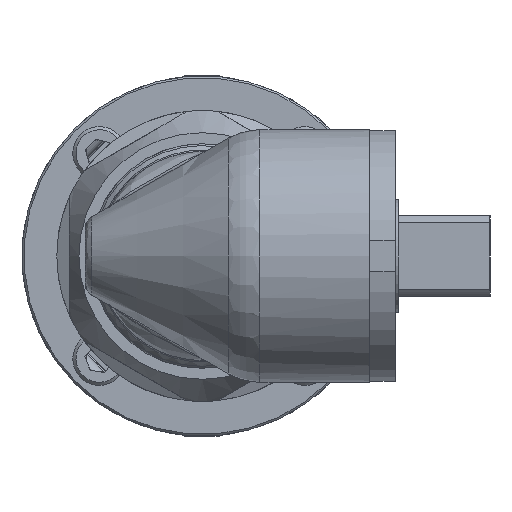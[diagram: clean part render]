
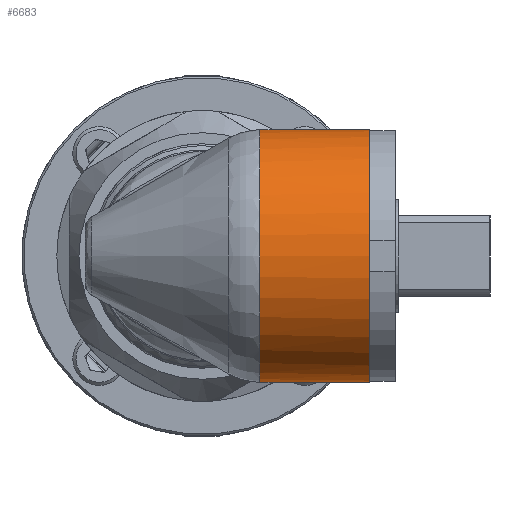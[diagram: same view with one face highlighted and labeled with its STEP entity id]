
A CAD part, left-side view. The second image highlights one B-rep face of the part: STEP entity #6683.
In plain terms, the highlighted cylindrical face has radius 20 mm (diameter 40 mm), a full revolution.
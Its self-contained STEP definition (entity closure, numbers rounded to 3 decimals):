
#93 = CARTESIAN_POINT ( 'NONE',  ( -269.849, -11.871, -12.196 ) ) ;
#443 = CARTESIAN_POINT ( 'NONE',  ( -269.388, -13.171, 11.579 ) ) ;
#560 = ORIENTED_EDGE ( 'NONE', *, *, #15318, .T. ) ;
#814 = ORIENTED_EDGE ( 'NONE', *, *, #21471, .F. ) ;
#1286 = CIRCLE ( 'NONE', #20278, 20. ) ;
#1506 = B_SPLINE_CURVE_WITH_KNOTS ( 'NONE', 3,
 ( #2220, #443, #14670, #21752 ),
 .UNSPECIFIED., .F., .F.,
 ( 4, 4 ),
 ( 0., 1. ),
 .UNSPECIFIED. ) ;
#1802 = CARTESIAN_POINT ( 'NONE',  ( -271.036, -10.09, -13.624 ) ) ;
#2220 = CARTESIAN_POINT ( 'NONE',  ( -269.169, -13.76, 11.258 ) ) ;
#2310 = ORIENTED_EDGE ( 'NONE', *, *, #6181, .F. ) ;
#2391 = VERTEX_POINT ( 'NONE', #19689 ) ;
#2439 = CARTESIAN_POINT ( 'NONE',  ( -269.169, -13.76, 11.258 ) ) ;
#3008 = DIRECTION ( 'NONE',  ( 0., -1., 0. ) ) ;
#3274 = CARTESIAN_POINT ( 'NONE',  ( -267.865, -16.101, -9.051 ) ) ;
#3510 = CARTESIAN_POINT ( 'NONE',  ( -267.865, -16.101, 9.051 ) ) ;
#3550 = B_SPLINE_CURVE_WITH_KNOTS ( 'NONE', 3,
 ( #13200, #10967, #4054, #12974 ),
 .UNSPECIFIED., .F., .F.,
 ( 4, 4 ),
 ( 0., 1. ),
 .UNSPECIFIED. ) ;
#3764 = CARTESIAN_POINT ( 'NONE',  ( -269.814, -11.937, -12.15 ) ) ;
#4054 = CARTESIAN_POINT ( 'NONE',  ( -269.388, -13.171, -11.579 ) ) ;
#4184 = FACE_OUTER_BOUND ( 'NONE', #9697, .T. ) ;
#4666 = EDGE_CURVE ( 'NONE', #8146, #18405, #3550, .T. ) ;
#5236 = DIRECTION ( 'NONE',  ( -1., 0., 0. ) ) ;
#5795 = CARTESIAN_POINT ( 'NONE',  ( -269.814, -11.937, 12.15 ) ) ;
#6181 = EDGE_CURVE ( 'NONE', #19494, #18405, #20712, .T. ) ;
#6683 = ADVANCED_FACE ( 'NONE', ( #4184, #14754 ), #12633, .T. ) ;
#6732 = CARTESIAN_POINT ( 'NONE',  ( -266.206, -18.086, -5.084 ) ) ;
#6853 = CARTESIAN_POINT ( 'NONE',  ( -267.865, -16.101, 9.051 ) ) ;
#6875 = CARTESIAN_POINT ( 'NONE',  ( -268.324, -15.544, 9.955 ) ) ;
#7237 = CARTESIAN_POINT ( 'NONE',  ( -271.609, -9.121, -14.193 ) ) ;
#7792 = CARTESIAN_POINT ( 'NONE',  ( -269.849, -11.871, 12.196 ) ) ;
#7994 = ORIENTED_EDGE ( 'NONE', *, *, #22654, .F. ) ;
#8138 = B_SPLINE_CURVE_WITH_KNOTS ( 'NONE', 3,
 ( #7792, #8467, #17574, #15599 ),
 .UNSPECIFIED., .F., .F.,
 ( 4, 4 ),
 ( 0., 1. ),
 .UNSPECIFIED. ) ;
#8146 = VERTEX_POINT ( 'NONE', #8229 ) ;
#8229 = CARTESIAN_POINT ( 'NONE',  ( -269.814, -11.937, -12.15 ) ) ;
#8467 = CARTESIAN_POINT ( 'NONE',  ( -270.44, -11.007, 12.964 ) ) ;
#8652 = CARTESIAN_POINT ( 'NONE',  ( -270.44, -11.007, -12.964 ) ) ;
#8698 = DIRECTION ( 'NONE',  ( 0., 1., 0. ) ) ;
#8763 = CARTESIAN_POINT ( 'NONE',  ( -269.849, -11.871, -12.196 ) ) ;
#9191 = CARTESIAN_POINT ( 'NONE',  ( -269.849, -11.871, -12.196 ) ) ;
#9364 = CARTESIAN_POINT ( 'NONE',  ( -269.849, -11.871, 12.196 ) ) ;
#9697 = EDGE_LOOP ( 'NONE', ( #22336 ) ) ;
#9786 = B_SPLINE_CURVE_WITH_KNOTS ( 'NONE', 3,
 ( #6853, #19462, #17801, #13978, #6732, #12074, #3274 ),
 .UNSPECIFIED., .F., .F.,
 ( 4, 1, 1, 1, 4 ),
 ( 0., 0.286, 0.571, 0.714, 1. ),
 .UNSPECIFIED. ) ;
#10967 = CARTESIAN_POINT ( 'NONE',  ( -269.604, -12.563, -11.876 ) ) ;
#11344 = EDGE_CURVE ( 'NONE', #16277, #16277, #1286, .T. ) ;
#11961 = ORIENTED_EDGE ( 'NONE', *, *, #19207, .T. ) ;
#12074 = CARTESIAN_POINT ( 'NONE',  ( -267.117, -17.009, -7.576 ) ) ;
#12219 = CARTESIAN_POINT ( 'NONE',  ( -285.7, -26.5, 0. ) ) ;
#12334 = CARTESIAN_POINT ( 'NONE',  ( -269.169, -13.76, 11.258 ) ) ;
#12633 = CYLINDRICAL_SURFACE ( 'NONE', #18555, 20. ) ;
#12665 = EDGE_CURVE ( 'NONE', #14892, #16136, #18566, .T. ) ;
#12692 = CARTESIAN_POINT ( 'NONE',  ( -269.824, -11.911, -12.164 ) ) ;
#12974 = CARTESIAN_POINT ( 'NONE',  ( -269.169, -13.76, -11.258 ) ) ;
#13200 = CARTESIAN_POINT ( 'NONE',  ( -269.814, -11.937, -12.15 ) ) ;
#13844 = ORIENTED_EDGE ( 'NONE', *, *, #19341, .T. ) ;
#13978 = CARTESIAN_POINT ( 'NONE',  ( -265.55, -18.856, -0.489 ) ) ;
#14002 = CIRCLE ( 'NONE', #20686, 20. ) ;
#14003 = CARTESIAN_POINT ( 'NONE',  ( -267.865, -16.101, 9.051 ) ) ;
#14160 = ORIENTED_EDGE ( 'NONE', *, *, #17805, .F. ) ;
#14285 = CARTESIAN_POINT ( 'NONE',  ( -267.865, -16.101, -9.051 ) ) ;
#14655 = CARTESIAN_POINT ( 'NONE',  ( -305.7, -26.5, 0. ) ) ;
#14670 = CARTESIAN_POINT ( 'NONE',  ( -269.604, -12.563, 11.876 ) ) ;
#14754 = FACE_OUTER_BOUND ( 'NONE', #21622, .T. ) ;
#14892 = VERTEX_POINT ( 'NONE', #7237 ) ;
#15318 = EDGE_CURVE ( 'NONE', #21662, #14892, #14002, .T. ) ;
#15599 = CARTESIAN_POINT ( 'NONE',  ( -271.609, -9.121, 14.193 ) ) ;
#15732 = ORIENTED_EDGE ( 'NONE', *, *, #19727, .F. ) ;
#16035 = ORIENTED_EDGE ( 'NONE', *, *, #4666, .T. ) ;
#16122 = B_SPLINE_CURVE_WITH_KNOTS ( 'NONE', 3,
 ( #3764, #12692, #16439, #9191 ),
 .UNSPECIFIED., .F., .F.,
 ( 4, 4 ),
 ( 0., 1. ),
 .UNSPECIFIED. ) ;
#16136 = VERTEX_POINT ( 'NONE', #93 ) ;
#16277 = VERTEX_POINT ( 'NONE', #14655 ) ;
#16439 = CARTESIAN_POINT ( 'NONE',  ( -269.836, -11.889, -12.179 ) ) ;
#16497 = DIRECTION ( 'NONE',  ( 0., 1., 0. ) ) ;
#16606 = DIRECTION ( 'NONE',  ( -1., 0., 0. ) ) ;
#16990 = VERTEX_POINT ( 'NONE', #9364 ) ;
#17488 = CARTESIAN_POINT ( 'NONE',  ( -268.324, -15.544, -9.955 ) ) ;
#17574 = CARTESIAN_POINT ( 'NONE',  ( -271.036, -10.09, 13.624 ) ) ;
#17652 = ORIENTED_EDGE ( 'NONE', *, *, #12665, .T. ) ;
#17770 = VERTEX_POINT ( 'NONE', #2439 ) ;
#17801 = CARTESIAN_POINT ( 'NONE',  ( -265.894, -18.454, 4.253 ) ) ;
#17805 = EDGE_CURVE ( 'NONE', #16990, #2391, #22353, .T. ) ;
#18395 = CARTESIAN_POINT ( 'NONE',  ( -269.824, -11.911, 12.164 ) ) ;
#18405 = VERTEX_POINT ( 'NONE', #19045 ) ;
#18555 = AXIS2_PLACEMENT_3D ( 'NONE', #21624, #16497, #16606 ) ;
#18566 = B_SPLINE_CURVE_WITH_KNOTS ( 'NONE', 3,
 ( #19306, #1802, #8652, #8763 ),
 .UNSPECIFIED., .F., .F.,
 ( 4, 4 ),
 ( 0., 1. ),
 .UNSPECIFIED. ) ;
#19045 = CARTESIAN_POINT ( 'NONE',  ( -269.169, -13.76, -11.258 ) ) ;
#19196 = DIRECTION ( 'NONE',  ( -1., 0., 0. ) ) ;
#19207 = EDGE_CURVE ( 'NONE', #17770, #2391, #1506, .T. ) ;
#19251 = CARTESIAN_POINT ( 'NONE',  ( -267.865, -16.101, -9.051 ) ) ;
#19306 = CARTESIAN_POINT ( 'NONE',  ( -271.609, -9.121, -14.193 ) ) ;
#19341 = EDGE_CURVE ( 'NONE', #16990, #21662, #8138, .T. ) ;
#19462 = CARTESIAN_POINT ( 'NONE',  ( -267.117, -17.009, 7.576 ) ) ;
#19494 = VERTEX_POINT ( 'NONE', #14285 ) ;
#19689 = CARTESIAN_POINT ( 'NONE',  ( -269.814, -11.937, 12.15 ) ) ;
#19713 = CARTESIAN_POINT ( 'NONE',  ( -268.803, -14.747, -10.72 ) ) ;
#19727 = EDGE_CURVE ( 'NONE', #21729, #19494, #9786, .T. ) ;
#20185 = CARTESIAN_POINT ( 'NONE',  ( -271.609, -9.121, 14.193 ) ) ;
#20278 = AXIS2_PLACEMENT_3D ( 'NONE', #12219, #8698, #5236 ) ;
#20686 = AXIS2_PLACEMENT_3D ( 'NONE', #22420, #3008, #19196 ) ;
#20712 = B_SPLINE_CURVE_WITH_KNOTS ( 'NONE', 3,
 ( #19251, #17488, #19713, #21214 ),
 .UNSPECIFIED., .F., .F.,
 ( 4, 4 ),
 ( 0., 1. ),
 .UNSPECIFIED. ) ;
#21214 = CARTESIAN_POINT ( 'NONE',  ( -269.169, -13.76, -11.258 ) ) ;
#21471 = EDGE_CURVE ( 'NONE', #8146, #16136, #16122, .T. ) ;
#21622 = EDGE_LOOP ( 'NONE', ( #11961, #14160, #13844, #560, #17652, #814, #16035, #2310, #15732, #7994 ) ) ;
#21624 = CARTESIAN_POINT ( 'NONE',  ( -285.7, -27.5, 0. ) ) ;
#21653 = CARTESIAN_POINT ( 'NONE',  ( -269.836, -11.889, 12.179 ) ) ;
#21662 = VERTEX_POINT ( 'NONE', #20185 ) ;
#21729 = VERTEX_POINT ( 'NONE', #3510 ) ;
#21752 = CARTESIAN_POINT ( 'NONE',  ( -269.814, -11.937, 12.15 ) ) ;
#21880 = CARTESIAN_POINT ( 'NONE',  ( -269.849, -11.871, 12.196 ) ) ;
#22336 = ORIENTED_EDGE ( 'NONE', *, *, #11344, .T. ) ;
#22353 = B_SPLINE_CURVE_WITH_KNOTS ( 'NONE', 3,
 ( #21880, #21653, #18395, #5795 ),
 .UNSPECIFIED., .F., .F.,
 ( 4, 4 ),
 ( 0., 1. ),
 .UNSPECIFIED. ) ;
#22420 = CARTESIAN_POINT ( 'NONE',  ( -285.7, -9.121, 0. ) ) ;
#22459 = B_SPLINE_CURVE_WITH_KNOTS ( 'NONE', 3,
 ( #12334, #22714, #6875, #14003 ),
 .UNSPECIFIED., .F., .F.,
 ( 4, 4 ),
 ( 0., 1. ),
 .UNSPECIFIED. ) ;
#22654 = EDGE_CURVE ( 'NONE', #17770, #21729, #22459, .T. ) ;
#22714 = CARTESIAN_POINT ( 'NONE',  ( -268.803, -14.747, 10.72 ) ) ;
